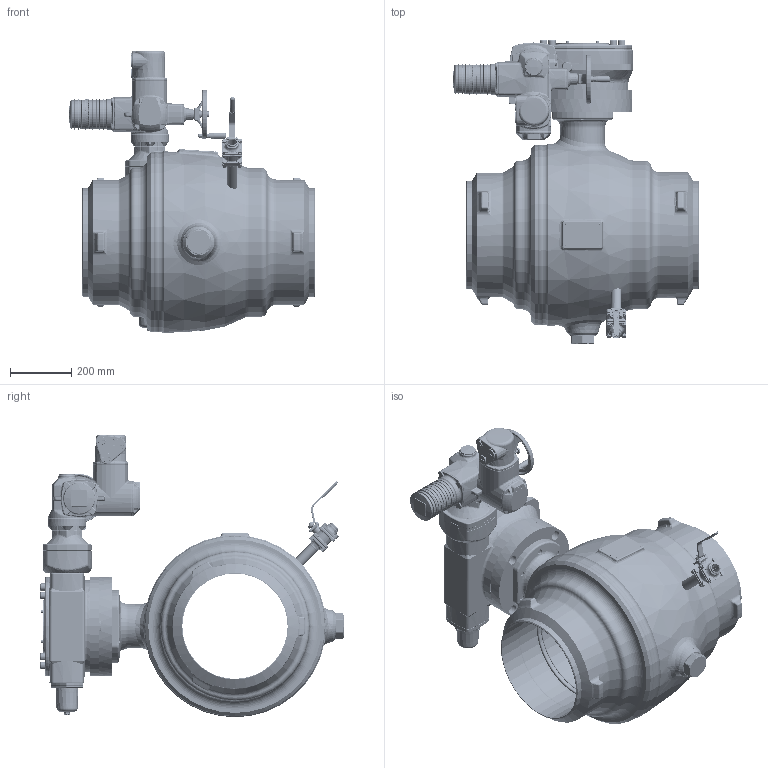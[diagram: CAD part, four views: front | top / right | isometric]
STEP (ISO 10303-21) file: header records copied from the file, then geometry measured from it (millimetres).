
FILE_DESCRIPTION((''),'2;1');
FILE_NAME('ASM0001_ASM','2026-01-28T10:53:16',('schwaba'),('KLINGER'),'CREO PARAMETRIC BY PTC INC, 2023014','CREO PARAMETRIC BY PTC INC, 2023014','');
FILE_SCHEMA(('CONFIG_CONTROL_DESIGN'));
Length unit declared in the file: millimetre
Products named in the file (4): KHSVI_350_FR_WE_ENTL; GS160_F25_F10_DN400; SA07_2-6_F10_STD; ASM0001_ASM
Assembly tree (3 placements, depth 2):
  ASM0001_ASM
    KHSVI_350_FR_WE_ENTL
    GS160_F25_F10_DN400
    SA07_2-6_F10_STD
Bounding box: 805 x 991 x 923.91 mm (x, y, z)
Volume: 79919693.2 mm3; surface area: 6358402.6 mm2
Topology: 10 solids, 10 shells, 6176 faces, 14635 edges, 8616 vertices
Faces by surface type: plane 1547, cylinder 1448, bspline 1173, torus 1041, cone 802, sphere 79, extrusion 63, revolution 23
Entity records: 365303 total; most frequent: CARTESIAN_POINT 232794, ORIENTED_EDGE 29008, DIRECTION 25863, EDGE_CURVE 14504, AXIS2_PLACEMENT_3D 10887, VERTEX_POINT 8615, EDGE_LOOP 6533, FACE_OUTER_BOUND 6175
